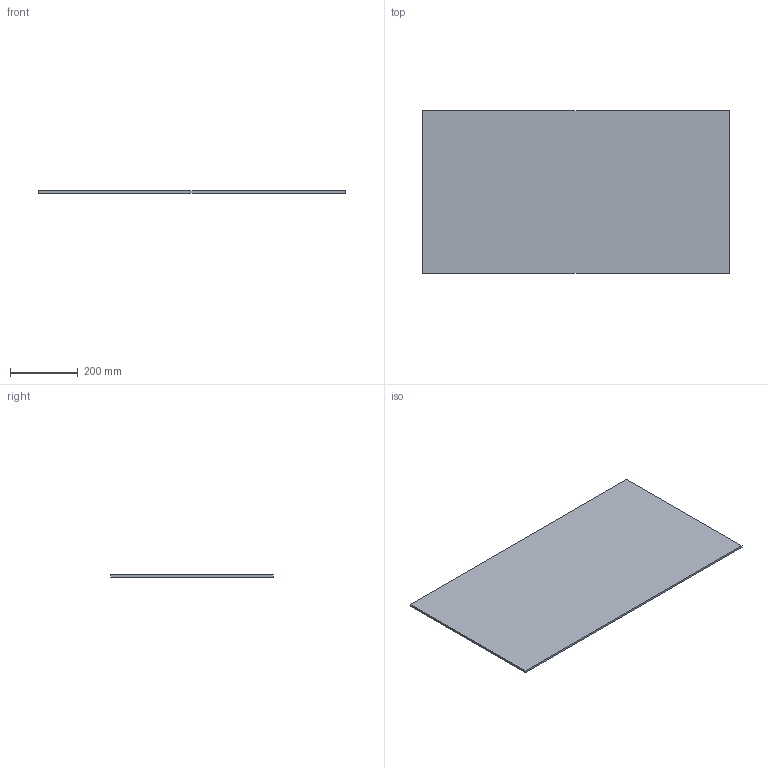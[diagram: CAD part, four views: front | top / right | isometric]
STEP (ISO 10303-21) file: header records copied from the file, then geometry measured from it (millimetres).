
FILE_DESCRIPTION (( 'STEP AP214' ), '1' );
FILE_NAME ('Lochblech_NL500_KAB1000_19.step', '2010-10-11T13:38:38', ( 'grass' ), ( '' ), 'SwSTEP 2.0', 'SolidWorks 2010', '' );
FILE_SCHEMA (( 'AUTOMOTIVE_DESIGN' ));
Length unit declared in the file: millimetre
Products named in the file (1): Lochblech_NL500_KAB1000_19
Bounding box: 902 x 479 x 6 mm (x, y, z)
Volume: 2592348 mm3; surface area: 880688 mm2
Topology: 1 solids, 1 shells, 6 faces, 12 edges, 8 vertices
Faces by surface type: plane 6
Entity records: 190 total; most frequent: CARTESIAN_POINT 27, DIRECTION 26, ORIENTED_EDGE 24, EDGE_CURVE 12, LINE 12, VECTOR 12, VERTEX_POINT 8, AXIS2_PLACEMENT_3D 7
